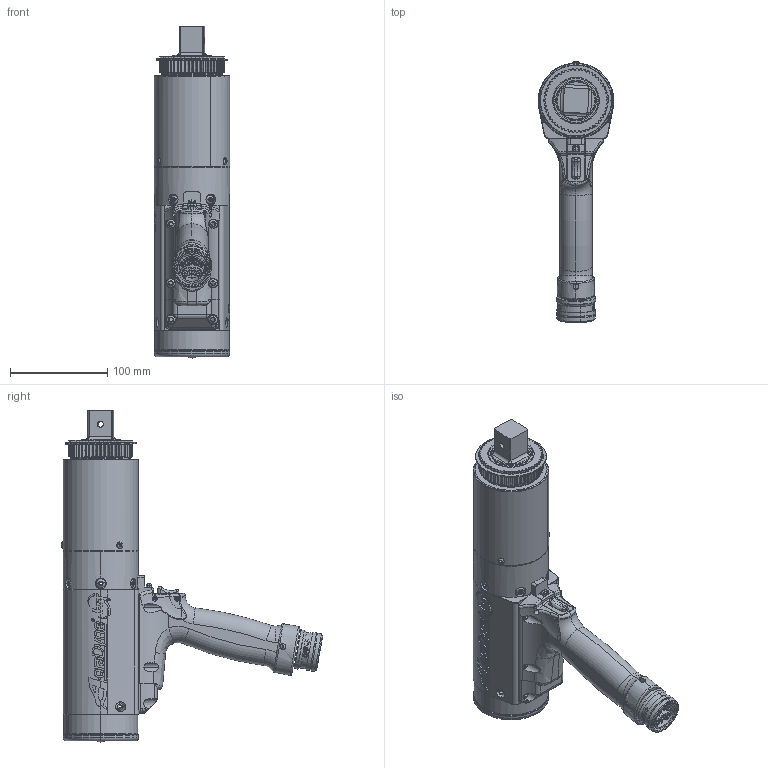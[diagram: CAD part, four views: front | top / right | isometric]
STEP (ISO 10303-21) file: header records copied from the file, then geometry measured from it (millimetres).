
FILE_DESCRIPTION (( 'STEP AP214' ), '1' );
FILE_NAME ('AEP4B771000B.STEP', '2022-07-21T00:45:10', ( '' ), ( '' ), 'SwSTEP 2.0', 'SolidWorks 2022', '' );
FILE_SCHEMA (( 'AUTOMOTIVE_DESIGN' ));
Length unit declared in the file: inch
Products named in the file (1): AEP4B771000B
Bounding box: 77.47 x 268.69 x 341.26 mm (x, y, z)
Surface area: 177363.6 mm2 (no closed solid volume)
Topology: 0 solids, 82 shells, 1285 faces, 4931 edges, 3537 vertices
Faces by surface type: cylinder 432, plane 352, bspline 205, torus 146, cone 136, sphere 14
Entity records: 124658 total; most frequent: CARTESIAN_POINT 70904, ORIENTED_EDGE 7677, DIRECTION 6694, EDGE_CURVE 4927, VERTEX_POINT 3537, AXIS2_PLACEMENT_3D 2499, VECTOR 1696, LINE 1696
